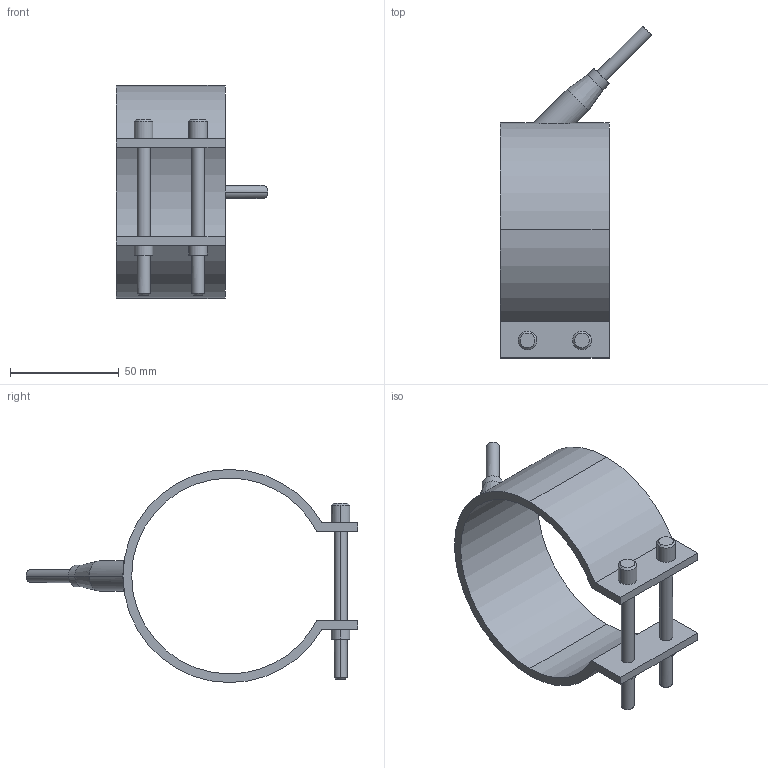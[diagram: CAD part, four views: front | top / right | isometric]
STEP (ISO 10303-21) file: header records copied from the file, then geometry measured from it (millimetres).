
FILE_DESCRIPTION(('CATIA V5 STEP Exchange'),'2;1');
FILE_NAME('C:\Users\Utente\Desktop\IO LAVORO\3D X SITO CF\X SITO\PLASTICA\RF1\29090050.stp','2021-03-29T17:58:26+00:00',('none'),('none'),'CATIA Version 5 Release 20 GA (IN-10)','CATIA V5 STEP AP203','none');
FILE_SCHEMA(('CONFIG_CONTROL_DESIGN'));
Length unit declared in the file: millimetre
Products named in the file (1): 29090050
Bounding box: 69.55 x 152.55 x 98 mm (x, y, z)
Volume: 66445.4 mm3; surface area: 35517.5 mm2
Topology: 1 solids, 1 shells, 54 faces, 123 edges, 79 vertices
Faces by surface type: cylinder 28, plane 16, cone 10
Entity records: 1734 total; most frequent: CARTESIAN_POINT 502, ORIENTED_EDGE 246, DIRECTION 213, EDGE_CURVE 123, AXIS2_PLACEMENT_3D 106, VERTEX_POINT 79, EDGE_LOOP 66, VECTOR 56
